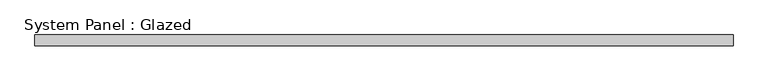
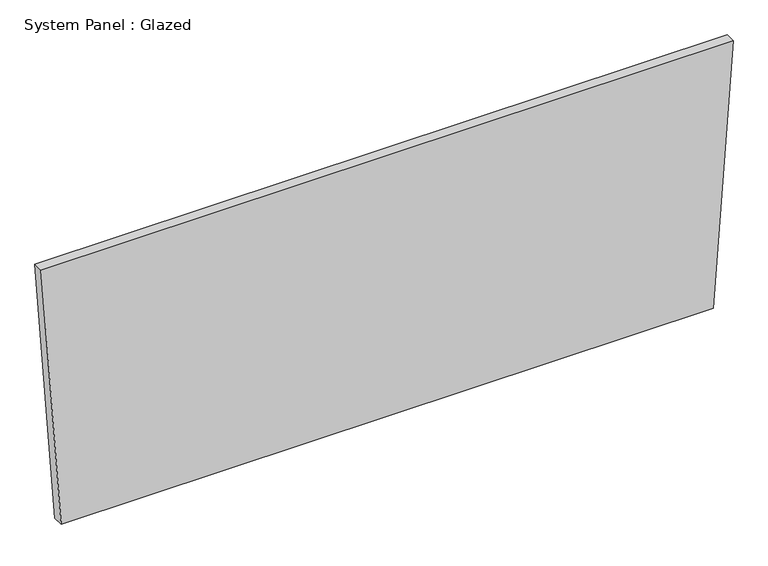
"""IFC4 building model written with IfcOpenShell, lengths in millimetres: plate geometry, System Panel : Glazed."""

from ifc_helpers import new_model, si_unit, frame, origin, place, context, project, spatial, polyline, outline, extrude, source, transform, mapped, element, save


def system_panel_glazed_6b9a0c10(model_context):
    return source(origin(), model_context, "Body", "SweptSolid", [
        extrude(outline(polyline([(0.0006506, -785.09537), (0.0, 785.0953226), (664.0299864, 833.4808289), (664.0299864, -833.4808289), (0.0006506, -785.09537)])), frame((0.0, 19.05, 0.0), z_axis=(0.0, 1.0, 0.0), x_axis=(0.0, 0.0, 1.0)), (0.0, 0.0, 1.0), 25.4),
    ])


if __name__ == "__main__":
    model = new_model("IFC4")
    model_context = context("Model", 3, world=origin())
    ifc_project = project(units=[si_unit("LENGTHUNIT", "METRE", prefix="MILLI")], contexts=[model_context])
    site = spatial("IfcSite", under=ifc_project)
    building = spatial("IfcBuilding", under=site)
    placement = place(None, origin())
    system_panel_glazed_shape = system_panel_glazed_6b9a0c10(model_context)
    element("IfcPlate", 1, ObjectType="System Panel : Glazed", at=placement, inside=building, context=model_context, shape_type="MappedRepresentation", body=[
        mapped(system_panel_glazed_shape, transform((0.0, 0.0, 0.0), x_axis=(1.0, 0.0, 0.0), y_axis=(0.0, 1.0, 0.0), z_axis=(0.0, 0.0, 1.0))),
    ])
    save(model, "model.ifc")
